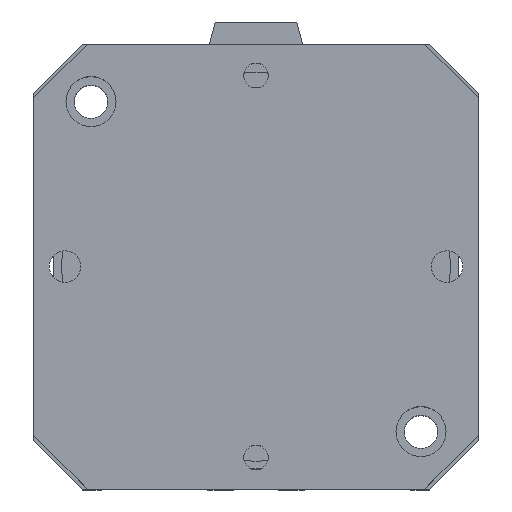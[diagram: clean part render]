
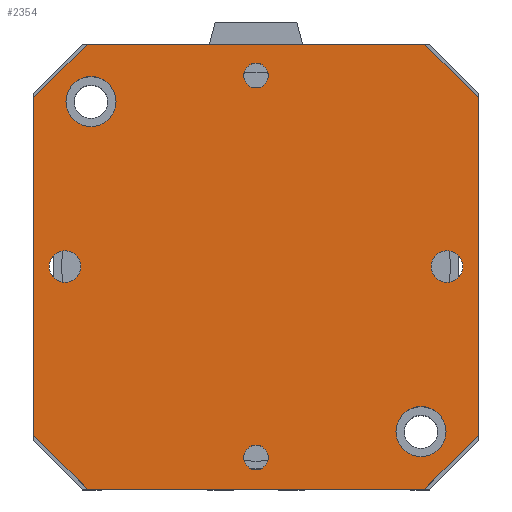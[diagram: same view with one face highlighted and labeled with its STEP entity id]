
A CAD part, top view. The second image highlights one B-rep face of the part: STEP entity #2354.
In plain terms, the highlighted planar face has unit normal (0, 0, 1).
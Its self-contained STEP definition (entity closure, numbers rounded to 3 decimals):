
#221=LINE('',#3869,#429);
#223=LINE('',#3873,#431);
#225=LINE('',#3877,#433);
#227=LINE('',#3881,#435);
#229=LINE('',#3885,#437);
#231=LINE('',#3889,#439);
#233=LINE('',#3893,#441);
#235=LINE('',#3896,#443);
#429=VECTOR('',#3196,91.);
#431=VECTOR('',#3200,20.506);
#433=VECTOR('',#3204,91.);
#435=VECTOR('',#3208,20.506);
#437=VECTOR('',#3212,91.);
#439=VECTOR('',#3216,20.506);
#441=VECTOR('',#3220,91.);
#443=VECTOR('',#3224,20.506);
#537=PLANE('',#2580);
#626=FACE_BOUND('',#956,.T.);
#627=FACE_BOUND('',#957,.T.);
#628=FACE_BOUND('',#958,.T.);
#629=FACE_BOUND('',#959,.T.);
#630=FACE_BOUND('',#960,.T.);
#631=FACE_BOUND('',#961,.T.);
#632=FACE_BOUND('',#962,.T.);
#956=EDGE_LOOP('',(#2134));
#957=EDGE_LOOP('',(#2135));
#958=EDGE_LOOP('',(#2136));
#959=EDGE_LOOP('',(#2137));
#960=EDGE_LOOP('',(#2138));
#961=EDGE_LOOP('',(#2139));
#962=EDGE_LOOP('',(#2140,#2141,#2142,#2143,#2144,#2145,#2146,#2147));
#1035=CIRCLE('',#2536,3.324);
#1037=CIRCLE('',#2539,3.324);
#1042=CIRCLE('',#2547,4.25);
#1046=CIRCLE('',#2554,4.25);
#1055=CIRCLE('',#2569,6.75);
#1056=CIRCLE('',#2571,6.75);
#1235=VERTEX_POINT('',#3787);
#1237=VERTEX_POINT('',#3792);
#1242=VERTEX_POINT('',#3805);
#1246=VERTEX_POINT('',#3816);
#1265=VERTEX_POINT('',#3860);
#1266=VERTEX_POINT('',#3863);
#1267=VERTEX_POINT('',#3866);
#1268=VERTEX_POINT('',#3868);
#1269=VERTEX_POINT('',#3872);
#1270=VERTEX_POINT('',#3876);
#1271=VERTEX_POINT('',#3880);
#1272=VERTEX_POINT('',#3884);
#1273=VERTEX_POINT('',#3888);
#1274=VERTEX_POINT('',#3892);
#1521=EDGE_CURVE('',#1235,#1235,#1035,.T.);
#1523=EDGE_CURVE('',#1237,#1237,#1037,.T.);
#1528=EDGE_CURVE('',#1242,#1242,#1042,.T.);
#1532=EDGE_CURVE('',#1246,#1246,#1046,.T.);
#1551=EDGE_CURVE('',#1265,#1265,#1055,.T.);
#1552=EDGE_CURVE('',#1266,#1266,#1056,.T.);
#1554=EDGE_CURVE('',#1268,#1267,#221,.T.);
#1556=EDGE_CURVE('',#1269,#1268,#223,.T.);
#1558=EDGE_CURVE('',#1270,#1269,#225,.T.);
#1560=EDGE_CURVE('',#1271,#1270,#227,.T.);
#1562=EDGE_CURVE('',#1272,#1271,#229,.T.);
#1564=EDGE_CURVE('',#1273,#1272,#231,.T.);
#1566=EDGE_CURVE('',#1274,#1273,#233,.T.);
#1568=EDGE_CURVE('',#1267,#1274,#235,.T.);
#2134=ORIENTED_EDGE('',*,*,#1521,.T.);
#2135=ORIENTED_EDGE('',*,*,#1523,.T.);
#2136=ORIENTED_EDGE('',*,*,#1528,.T.);
#2137=ORIENTED_EDGE('',*,*,#1532,.T.);
#2138=ORIENTED_EDGE('',*,*,#1551,.T.);
#2139=ORIENTED_EDGE('',*,*,#1552,.T.);
#2140=ORIENTED_EDGE('',*,*,#1568,.T.);
#2141=ORIENTED_EDGE('',*,*,#1566,.T.);
#2142=ORIENTED_EDGE('',*,*,#1564,.T.);
#2143=ORIENTED_EDGE('',*,*,#1562,.T.);
#2144=ORIENTED_EDGE('',*,*,#1560,.T.);
#2145=ORIENTED_EDGE('',*,*,#1558,.T.);
#2146=ORIENTED_EDGE('',*,*,#1556,.T.);
#2147=ORIENTED_EDGE('',*,*,#1554,.T.);
#2354=ADVANCED_FACE('',(#626,#627,#628,#629,#630,#631,#632),#537,.T.);
#2536=AXIS2_PLACEMENT_3D('',#3788,#3111,#3112);
#2539=AXIS2_PLACEMENT_3D('',#3793,#3117,#3118);
#2547=AXIS2_PLACEMENT_3D('',#3806,#3133,#3134);
#2554=AXIS2_PLACEMENT_3D('',#3817,#3147,#3148);
#2569=AXIS2_PLACEMENT_3D('',#3861,#3187,#3188);
#2571=AXIS2_PLACEMENT_3D('',#3864,#3191,#3192);
#2580=AXIS2_PLACEMENT_3D('',#3897,#3225,#3226);
#3111=DIRECTION('center_axis',(0.,0.,-1.));
#3112=DIRECTION('ref_axis',(1.,0.,0.));
#3117=DIRECTION('center_axis',(0.,0.,-1.));
#3118=DIRECTION('ref_axis',(1.,0.,0.));
#3133=DIRECTION('center_axis',(0.,0.,-1.));
#3134=DIRECTION('ref_axis',(1.,0.,0.));
#3147=DIRECTION('center_axis',(0.,0.,-1.));
#3148=DIRECTION('ref_axis',(1.,0.,0.));
#3187=DIRECTION('center_axis',(0.,0.,-1.));
#3188=DIRECTION('ref_axis',(-1.,0.,0.));
#3191=DIRECTION('center_axis',(0.,0.,-1.));
#3192=DIRECTION('ref_axis',(-1.,0.,0.));
#3196=DIRECTION('',(0.,1.,0.));
#3200=DIRECTION('',(0.707,0.707,0.));
#3204=DIRECTION('',(1.,0.,0.));
#3208=DIRECTION('',(0.707,-0.707,0.));
#3212=DIRECTION('',(0.,-1.,0.));
#3216=DIRECTION('',(-0.707,-0.707,0.));
#3220=DIRECTION('',(-1.,0.,0.));
#3224=DIRECTION('',(-0.707,0.707,0.));
#3225=DIRECTION('center_axis',(0.,0.,1.));
#3226=DIRECTION('ref_axis',(1.,0.,0.));
#3787=CARTESIAN_POINT('',(-54.824,0.,115.75));
#3788=CARTESIAN_POINT('Origin',(-51.5,0.,115.75));
#3792=CARTESIAN_POINT('',(48.177,0.,115.75));
#3793=CARTESIAN_POINT('Origin',(51.5,0.,115.75));
#3805=CARTESIAN_POINT('',(-4.25,51.5,115.75));
#3806=CARTESIAN_POINT('Origin',(0.,51.5,115.75));
#3816=CARTESIAN_POINT('',(-4.25,-51.5,115.75));
#3817=CARTESIAN_POINT('Origin',(0.,-51.5,115.75));
#3860=CARTESIAN_POINT('',(-37.75,-44.5,115.75));
#3861=CARTESIAN_POINT('Origin',(-44.5,-44.5,115.75));
#3863=CARTESIAN_POINT('',(51.25,44.5,115.75));
#3864=CARTESIAN_POINT('Origin',(44.5,44.5,115.75));
#3866=CARTESIAN_POINT('',(60.,45.5,115.75));
#3868=CARTESIAN_POINT('',(60.,-45.5,115.75));
#3869=CARTESIAN_POINT('',(60.,45.5,115.75));
#3872=CARTESIAN_POINT('',(45.5,-60.,115.75));
#3873=CARTESIAN_POINT('',(60.,-45.5,115.75));
#3876=CARTESIAN_POINT('',(-45.5,-60.,115.75));
#3877=CARTESIAN_POINT('',(45.5,-60.,115.75));
#3880=CARTESIAN_POINT('',(-60.,-45.5,115.75));
#3881=CARTESIAN_POINT('',(-45.5,-60.,115.75));
#3884=CARTESIAN_POINT('',(-60.,45.5,115.75));
#3885=CARTESIAN_POINT('',(-60.,-45.5,115.75));
#3888=CARTESIAN_POINT('',(-45.5,60.,115.75));
#3889=CARTESIAN_POINT('',(-60.,45.5,115.75));
#3892=CARTESIAN_POINT('',(45.5,60.,115.75));
#3893=CARTESIAN_POINT('',(-45.5,60.,115.75));
#3896=CARTESIAN_POINT('',(45.5,60.,115.75));
#3897=CARTESIAN_POINT('Origin',(0.,0.,115.75));
